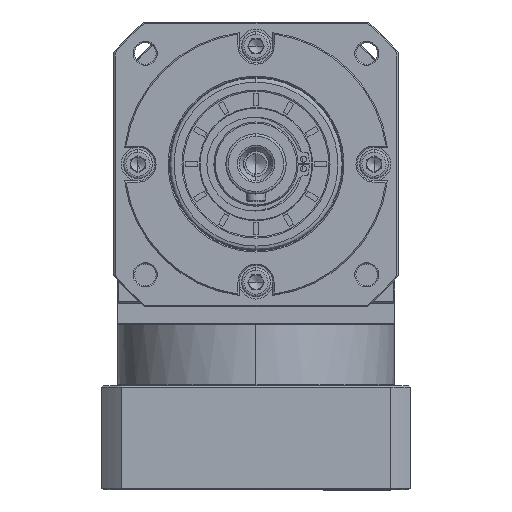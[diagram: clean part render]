
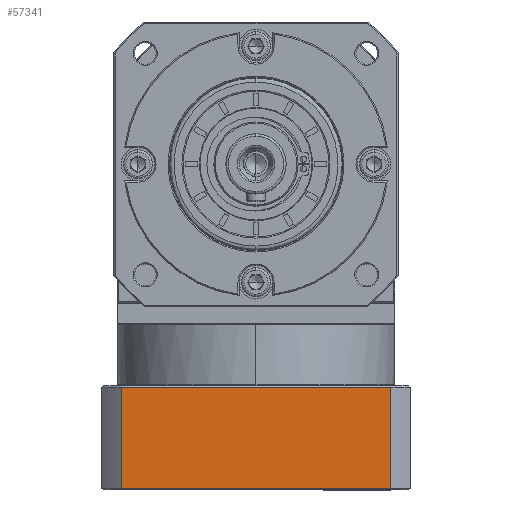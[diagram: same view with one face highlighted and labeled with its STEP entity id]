
A CAD part, top view. The second image highlights one B-rep face of the part: STEP entity #57341.
In plain terms, the highlighted planar face has unit normal (0, 0, 1).
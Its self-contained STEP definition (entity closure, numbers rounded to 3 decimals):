
#5150 = DIRECTION ( 'NONE',  ( 0., 1., 0. ) ) ;
#6262 = EDGE_CURVE ( 'NONE', #49847, #112638, #43828, .T. ) ;
#6534 = CARTESIAN_POINT ( 'NONE',  ( -167.425, 125.577, 71.858 ) ) ;
#12041 = DIRECTION ( 'NONE',  ( 0., 0., -1. ) ) ;
#13773 = CARTESIAN_POINT ( 'NONE',  ( -167.425, -127.337, 71.858 ) ) ;
#19130 = LINE ( 'NONE', #111020, #154368 ) ;
#20474 = VECTOR ( 'NONE', #149070, 1000. ) ;
#31520 = VECTOR ( 'NONE', #71278, 1000. ) ;
#43828 = LINE ( 'NONE', #6534, #31520 ) ;
#45698 = CARTESIAN_POINT ( 'NONE',  ( -279.299, -127.337, 71.858 ) ) ;
#49847 = VERTEX_POINT ( 'NONE', #13773 ) ;
#57341 = ADVANCED_FACE ( 'NONE', ( #153386 ), #155864, .F. ) ;
#71278 = DIRECTION ( 'NONE',  ( 0., -1., 0. ) ) ;
#74028 = VERTEX_POINT ( 'NONE', #86791 ) ;
#77421 = DIRECTION ( 'NONE',  ( -1., 0., 0. ) ) ;
#86670 = ORIENTED_EDGE ( 'NONE', *, *, #6262, .F. ) ;
#86791 = CARTESIAN_POINT ( 'NONE',  ( -279.299, -169.337, 71.858 ) ) ;
#88009 = LINE ( 'NONE', #97435, #20474 ) ;
#96603 = EDGE_CURVE ( 'NONE', #147553, #49847, #88009, .T. ) ;
#97435 = CARTESIAN_POINT ( 'NONE',  ( -287.362, -127.337, 71.858 ) ) ;
#98216 = LINE ( 'NONE', #164833, #120750 ) ;
#101182 = EDGE_LOOP ( 'NONE', ( #86670, #157605, #141515, #126144 ) ) ;
#104535 = AXIS2_PLACEMENT_3D ( 'NONE', #169542, #12041, #77421 ) ;
#110360 = CARTESIAN_POINT ( 'NONE',  ( -167.425, -169.337, 71.858 ) ) ;
#111020 = CARTESIAN_POINT ( 'NONE',  ( -287.362, -169.337, 71.858 ) ) ;
#112638 = VERTEX_POINT ( 'NONE', #110360 ) ;
#120750 = VECTOR ( 'NONE', #5150, 1000. ) ;
#124212 = DIRECTION ( 'NONE',  ( -1., 0., 0. ) ) ;
#126144 = ORIENTED_EDGE ( 'NONE', *, *, #126417, .F. ) ;
#126417 = EDGE_CURVE ( 'NONE', #112638, #74028, #19130, .T. ) ;
#141515 = ORIENTED_EDGE ( 'NONE', *, *, #155009, .F. ) ;
#147553 = VERTEX_POINT ( 'NONE', #45698 ) ;
#149070 = DIRECTION ( 'NONE',  ( 1., 0., 0. ) ) ;
#153386 = FACE_OUTER_BOUND ( 'NONE', #101182, .T. ) ;
#154368 = VECTOR ( 'NONE', #124212, 1000. ) ;
#155009 = EDGE_CURVE ( 'NONE', #74028, #147553, #98216, .T. ) ;
#155864 = PLANE ( 'NONE',  #104535 ) ;
#157605 = ORIENTED_EDGE ( 'NONE', *, *, #96603, .F. ) ;
#164833 = CARTESIAN_POINT ( 'NONE',  ( -279.299, -169.837, 71.858 ) ) ;
#169542 = CARTESIAN_POINT ( 'NONE',  ( -287.362, -169.837, 71.858 ) ) ;
